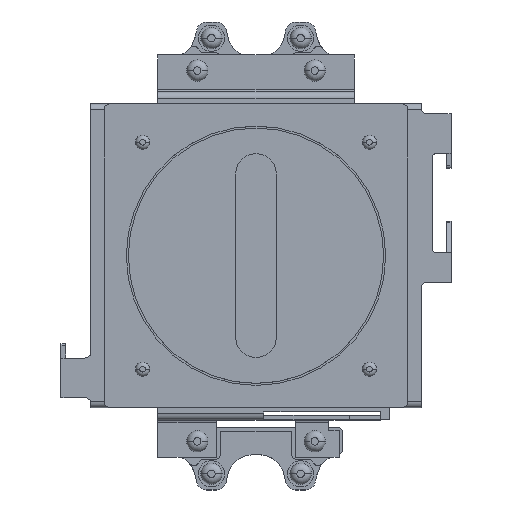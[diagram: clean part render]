
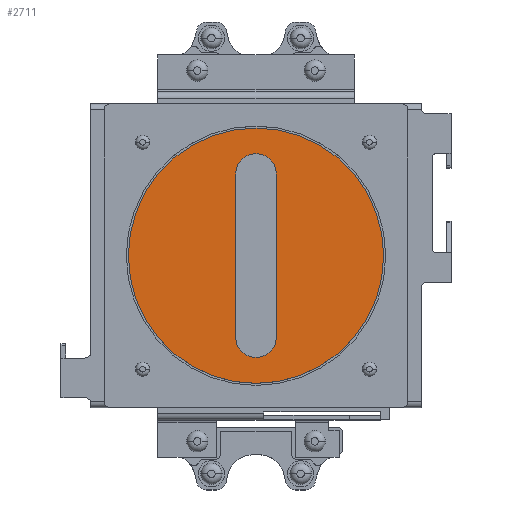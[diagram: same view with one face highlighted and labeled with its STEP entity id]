
A CAD part, top view. The second image highlights one B-rep face of the part: STEP entity #2711.
In plain terms, the highlighted planar face has unit normal (0, 0, 1).
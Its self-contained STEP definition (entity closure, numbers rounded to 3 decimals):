
#2711 = ADVANCED_FACE( '', ( #7623, #7624 ), #7625, .T. );
#2775 = VERTEX_POINT( '', #7694 );
#3057 = EDGE_CURVE( '', #2775, #5095, #8006, .T. );
#3333 = EDGE_CURVE( '', #6017, #6161, #8311, .T. );
#3795 = VERTEX_POINT( '', #8831 );
#4721 = EDGE_CURVE( '', #5095, #3795, #9837, .T. );
#5095 = VERTEX_POINT( '', #10260 );
#5327 = VERTEX_POINT( '', #10522 );
#5631 = EDGE_CURVE( '', #6161, #6017, #10852, .T. );
#6017 = VERTEX_POINT( '', #11282 );
#6161 = VERTEX_POINT( '', #11445 );
#6697 = EDGE_CURVE( '', #3795, #5327, #12030, .T. );
#7051 = EDGE_CURVE( '', #5327, #2775, #12426, .T. );
#7623 = FACE_BOUND( '', #13101, .T. );
#7624 = FACE_OUTER_BOUND( '', #13102, .T. );
#7625 = PLANE( '', #13103 );
#7694 = CARTESIAN_POINT( '', ( 10., 40.25, 28.502 ) );
#8006 = LINE( '', #13617, #13618 );
#8311 = CIRCLE( '', #14019, 63. );
#8831 = CARTESIAN_POINT( '', ( -10., -40.25, 28.502 ) );
#9837 = CIRCLE( '', #16057, 10. );
#10260 = CARTESIAN_POINT( '', ( 10., -40.25, 28.502 ) );
#10522 = CARTESIAN_POINT( '', ( -10., 40.25, 28.502 ) );
#10852 = CIRCLE( '', #17433, 63. );
#11282 = CARTESIAN_POINT( '', ( 63., 0., 28.502 ) );
#11445 = CARTESIAN_POINT( '', ( -63., 0., 28.502 ) );
#12030 = LINE( '', #19015, #19016 );
#12426 = CIRCLE( '', #19542, 10. );
#13101 = EDGE_LOOP( '', ( #20256, #20257, #20258, #20259 ) );
#13102 = EDGE_LOOP( '', ( #20260, #20261 ) );
#13103 = AXIS2_PLACEMENT_3D( '', #20262, #20263, #20264 );
#13617 = CARTESIAN_POINT( '', ( 10., 20.125, 28.502 ) );
#13618 = VECTOR( '', #20727, 1. );
#14019 = AXIS2_PLACEMENT_3D( '', #21040, #21041, #21042 );
#16057 = AXIS2_PLACEMENT_3D( '', #22865, #22866, #22867 );
#17433 = AXIS2_PLACEMENT_3D( '', #24056, #24057, #24058 );
#19015 = CARTESIAN_POINT( '', ( -10., -20.125, 28.502 ) );
#19016 = VECTOR( '', #25472, 1. );
#19542 = AXIS2_PLACEMENT_3D( '', #25930, #25931, #25932 );
#20256 = ORIENTED_EDGE( '', *, *, #6697, .T. );
#20257 = ORIENTED_EDGE( '', *, *, #7051, .T. );
#20258 = ORIENTED_EDGE( '', *, *, #3057, .T. );
#20259 = ORIENTED_EDGE( '', *, *, #4721, .T. );
#20260 = ORIENTED_EDGE( '', *, *, #3333, .F. );
#20261 = ORIENTED_EDGE( '', *, *, #5631, .F. );
#20262 = CARTESIAN_POINT( '', ( 0., 0., 28.502 ) );
#20263 = DIRECTION( '', ( 0., 0., 1. ) );
#20264 = DIRECTION( '', ( 0., -1., 0. ) );
#20727 = DIRECTION( '', ( 0., -1., 0. ) );
#21040 = CARTESIAN_POINT( '', ( 0., 0., 28.502 ) );
#21041 = DIRECTION( '', ( 0., 0., -1. ) );
#21042 = DIRECTION( '', ( 1., 0., 0. ) );
#22865 = CARTESIAN_POINT( '', ( 0., -40.25, 28.502 ) );
#22866 = DIRECTION( '', ( 0., 0., -1. ) );
#22867 = DIRECTION( '', ( -1., 0., 0. ) );
#24056 = CARTESIAN_POINT( '', ( 0., 0., 28.502 ) );
#24057 = DIRECTION( '', ( 0., 0., -1. ) );
#24058 = DIRECTION( '', ( 1., 0., 0. ) );
#25472 = DIRECTION( '', ( 0., 1., 0. ) );
#25930 = CARTESIAN_POINT( '', ( 0., 40.25, 28.502 ) );
#25931 = DIRECTION( '', ( 0., 0., -1. ) );
#25932 = DIRECTION( '', ( 1., 0., 0. ) );
